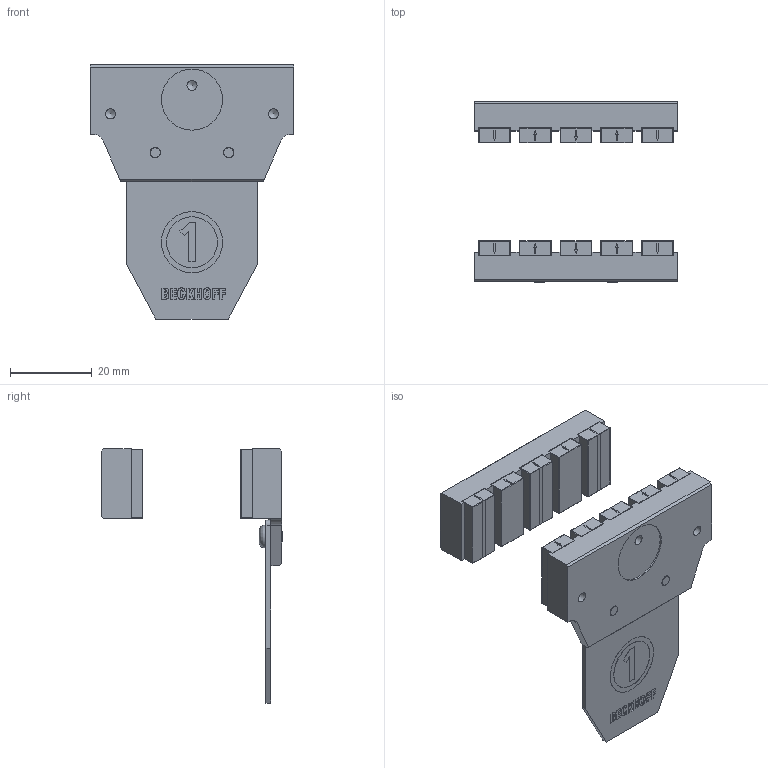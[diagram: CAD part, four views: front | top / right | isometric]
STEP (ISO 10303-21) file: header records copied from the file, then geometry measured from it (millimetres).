
FILE_DESCRIPTION(/* description */ (''),/* implementation_level */ '2;1');
FILE_NAME(/* name */ 'C:\_Vault-Workspace\CAD-Daten\XTS\CAD Daten Homepage\187685 AT9001-1550.stp',/* time_stamp */ '2019-02-06T16:04:20+01:00',/* author */ ('UweB'),/* organization */ (''),/* preprocessor_version */ 'ST-DEVELOPER v17.2',/* originating_system */ 'Autodesk Inventor 2019',/* authorisation */ '');
FILE_SCHEMA (('AUTOMOTIVE_DESIGN { 1 0 10303 214 3 1 1 }'));
Length unit declared in the file: millimetre
Products named in the file (1): 187685 AT9001-1550
Bounding box: 49.9 x 44.3 x 62.35 mm (x, y, z)
Volume: 18646.3 mm3; surface area: 10553.1 mm2
Topology: 2 solids, 4 shells, 752 faces, 2019 edges, 1203 vertices
Faces by surface type: plane 457, cylinder 167, sphere 80, bspline 36, cone 10, torus 2
Full cylindrical faces by diameter (mm): 2.459 x6, 3 x2, 3.2 x2, 5.7 x2, 12.5 x1, 15 x3
Entity records: 23602 total; most frequent: CARTESIAN_POINT 4409, ORIENTED_EDGE 3862, DIRECTION 3692, EDGE_CURVE 1931, LINE 1440, VECTOR 1440, VERTEX_POINT 1203, AXIS2_PLACEMENT_3D 1126
